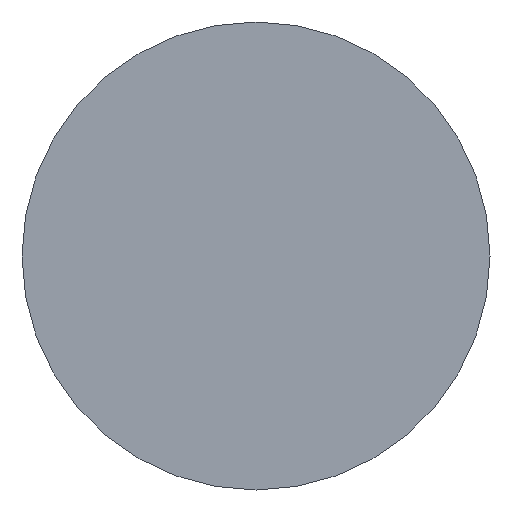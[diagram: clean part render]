
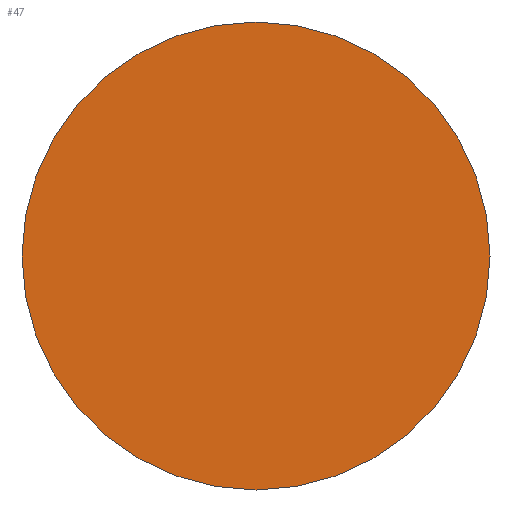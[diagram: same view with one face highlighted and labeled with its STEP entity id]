
A CAD part, front view. The second image highlights one B-rep face of the part: STEP entity #47.
In plain terms, the highlighted planar face has unit normal (0, -1, 0).
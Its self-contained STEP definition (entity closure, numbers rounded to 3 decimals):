
#1 = ORIENTED_EDGE ( 'NONE', *, *, #142, .T. ) ;
#44 = DIRECTION ( 'NONE',  ( 0., -1., 0. ) ) ;
#47 = ADVANCED_FACE ( 'NONE', ( #410 ), #361, .T. ) ;
#50 = VERTEX_POINT ( 'NONE', #279 ) ;
#55 = VERTEX_POINT ( 'NONE', #314 ) ;
#78 = CARTESIAN_POINT ( 'NONE',  ( 8., 0., 0. ) ) ;
#81 = AXIS2_PLACEMENT_3D ( 'NONE', #444, #44, #320 ) ;
#123 = DIRECTION ( 'NONE',  ( 0., -1., 0. ) ) ;
#142 = EDGE_CURVE ( 'NONE', #55, #50, #488, .T. ) ;
#149 = ORIENTED_EDGE ( 'NONE', *, *, #201, .T. ) ;
#162 = DIRECTION ( 'NONE',  ( 0., 0., -1. ) ) ;
#201 = EDGE_CURVE ( 'NONE', #50, #55, #231, .T. ) ;
#231 = CIRCLE ( 'NONE', #269, 8. ) ;
#232 = DIRECTION ( 'NONE',  ( 0., -1., 0. ) ) ;
#241 = CARTESIAN_POINT ( 'NONE',  ( 0., 0., 0. ) ) ;
#269 = AXIS2_PLACEMENT_3D ( 'NONE', #241, #123, #162 ) ;
#279 = CARTESIAN_POINT ( 'NONE',  ( 0., 0., 8. ) ) ;
#295 = AXIS2_PLACEMENT_3D ( 'NONE', #78, #232, #402 ) ;
#314 = CARTESIAN_POINT ( 'NONE',  ( 0., 0., -8. ) ) ;
#320 = DIRECTION ( 'NONE',  ( 0., 0., -1. ) ) ;
#361 = PLANE ( 'NONE',  #295 ) ;
#367 = EDGE_LOOP ( 'NONE', ( #1, #149 ) ) ;
#402 = DIRECTION ( 'NONE',  ( 0., 0., -1. ) ) ;
#410 = FACE_OUTER_BOUND ( 'NONE', #367, .T. ) ;
#444 = CARTESIAN_POINT ( 'NONE',  ( 0., 0., 0. ) ) ;
#488 = CIRCLE ( 'NONE', #81, 8. ) ;
